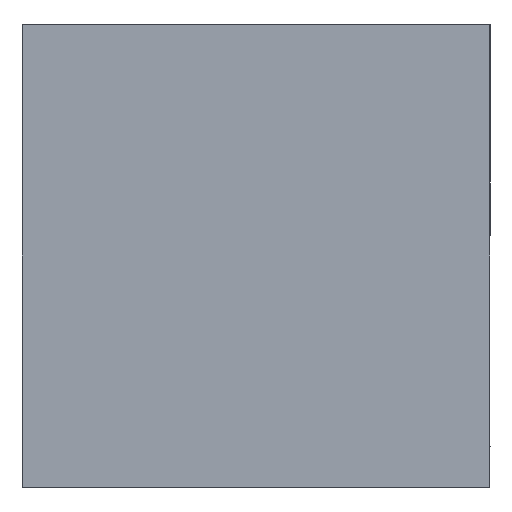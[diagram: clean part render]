
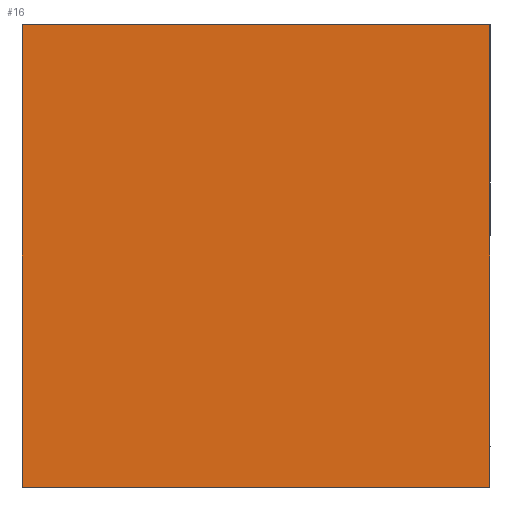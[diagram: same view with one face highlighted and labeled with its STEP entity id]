
A CAD part, left-side view. The second image highlights one B-rep face of the part: STEP entity #16.
In plain terms, the highlighted planar face has unit normal (-1, 0, 0).
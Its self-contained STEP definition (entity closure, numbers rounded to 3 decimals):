
#4 = LINE ( 'NONE', #73, #228 ) ;
#16 = ADVANCED_FACE ( 'NONE', ( #133 ), #132, .T. ) ;
#29 = LINE ( 'NONE', #186, #334 ) ;
#50 = VERTEX_POINT ( 'NONE', #64 ) ;
#59 = EDGE_CURVE ( 'NONE', #167, #198, #216, .T. ) ;
#60 = EDGE_LOOP ( 'NONE', ( #241, #469, #135, #234 ) ) ;
#64 = CARTESIAN_POINT ( 'NONE',  ( 28.202, -3.998, 19.75 ) ) ;
#69 = DIRECTION ( 'NONE',  ( 0., -1., 0. ) ) ;
#73 = CARTESIAN_POINT ( 'NONE',  ( 28.202, 6.002, 0. ) ) ;
#78 = CARTESIAN_POINT ( 'NONE',  ( 28.202, 16.002, 19.75 ) ) ;
#102 = DIRECTION ( 'NONE',  ( -1., 0., 0. ) ) ;
#130 = AXIS2_PLACEMENT_3D ( 'NONE', #407, #102, #451 ) ;
#132 = PLANE ( 'NONE',  #130 ) ;
#133 = FACE_OUTER_BOUND ( 'NONE', #60, .T. ) ;
#135 = ORIENTED_EDGE ( 'NONE', *, *, #59, .T. ) ;
#143 = VERTEX_POINT ( 'NONE', #462 ) ;
#167 = VERTEX_POINT ( 'NONE', #78 ) ;
#186 = CARTESIAN_POINT ( 'NONE',  ( 28.202, -3.998, 19.75 ) ) ;
#198 = VERTEX_POINT ( 'NONE', #437 ) ;
#216 = LINE ( 'NONE', #444, #265 ) ;
#227 = CARTESIAN_POINT ( 'NONE',  ( 28.202, -3.998, 0. ) ) ;
#228 = VECTOR ( 'NONE', #69, 1000. ) ;
#231 = LINE ( 'NONE', #227, #394 ) ;
#234 = ORIENTED_EDGE ( 'NONE', *, *, #312, .T. ) ;
#241 = ORIENTED_EDGE ( 'NONE', *, *, #419, .F. ) ;
#265 = VECTOR ( 'NONE', #293, 1000. ) ;
#293 = DIRECTION ( 'NONE',  ( 0., 0., -1. ) ) ;
#312 = EDGE_CURVE ( 'NONE', #198, #143, #4, .T. ) ;
#334 = VECTOR ( 'NONE', #482, 1000. ) ;
#394 = VECTOR ( 'NONE', #425, 1000. ) ;
#407 = CARTESIAN_POINT ( 'NONE',  ( 28.202, -3.998, 0. ) ) ;
#419 = EDGE_CURVE ( 'NONE', #50, #143, #231, .T. ) ;
#425 = DIRECTION ( 'NONE',  ( 0., 0., -1. ) ) ;
#437 = CARTESIAN_POINT ( 'NONE',  ( 28.202, 16.002, 0. ) ) ;
#444 = CARTESIAN_POINT ( 'NONE',  ( 28.202, 16.002, 0. ) ) ;
#451 = DIRECTION ( 'NONE',  ( 0., 0., 1. ) ) ;
#459 = EDGE_CURVE ( 'NONE', #50, #167, #29, .T. ) ;
#462 = CARTESIAN_POINT ( 'NONE',  ( 28.202, -3.998, 0. ) ) ;
#469 = ORIENTED_EDGE ( 'NONE', *, *, #459, .T. ) ;
#482 = DIRECTION ( 'NONE',  ( 0., 1., 0. ) ) ;
